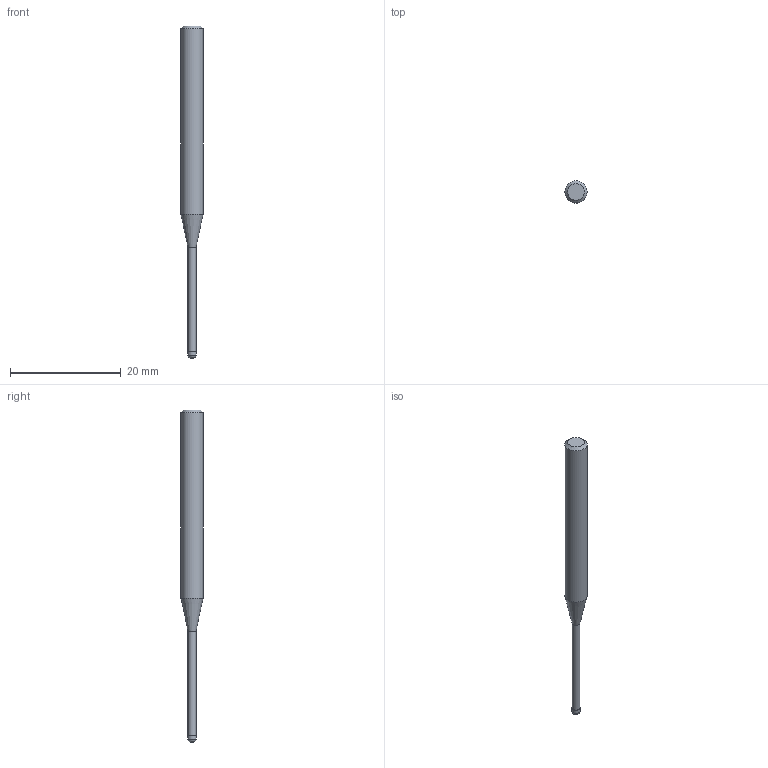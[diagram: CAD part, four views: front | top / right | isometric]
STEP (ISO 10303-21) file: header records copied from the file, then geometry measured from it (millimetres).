
FILE_DESCRIPTION((''),'2;1');
FILE_NAME('C:\Users\nsx150\AppData\Local\Temp\Mastercam 2021\17T8Q8S9EB\TEMP.step','2021-04-21T14:36:35',(''),(''),'STEP Write','Mastercam 2021 ... CNC Software, Inc.','');
FILE_SCHEMA(('AUTOMOTIVE_DESIGN'));
Length unit declared in the file: millimetre
Products named in the file (1): None
Bounding box: 4 x 4 x 60 mm (x, y, z)
Volume: 496.3 mm3; surface area: 583.7 mm2
Topology: 2 solids, 2 shells, 10 faces, 14 edges, 8 vertices
Faces by surface type: plane 4, cylinder 3, cone 2, torus 1
Full cylindrical faces by diameter (mm): 1.45 x1, 1.5 x1, 4 x1
Entity records: 232 total; most frequent: DIRECTION 40, CARTESIAN_POINT 28, AXIS2_PLACEMENT_3D 20, ORIENTED_EDGE 16, EDGE_LOOP 16, STYLED_ITEM 13, ADVANCED_FACE 10, FACE_BOUND 10
